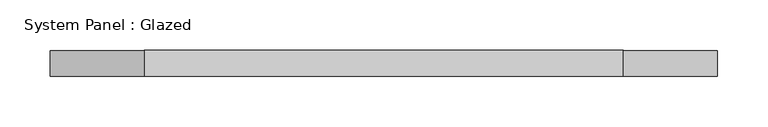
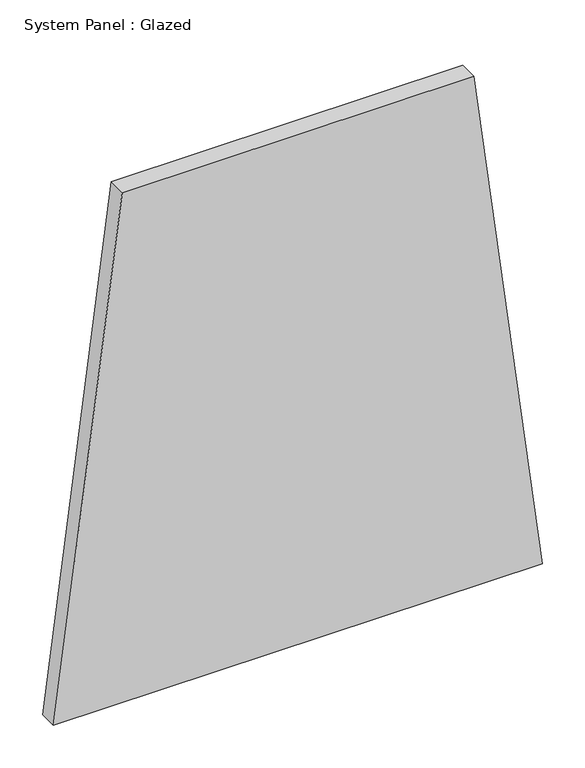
"""IFC4 building model written with IfcOpenShell, lengths in millimetres: plate geometry, System Panel : Glazed."""

from ifc_helpers import new_model, si_unit, frame, origin, place, context, project, spatial, polyline, outline, extrude, source, transform, mapped, element, save


def system_panel_glazed_86a28251(model_context):
    return source(origin(), model_context, "Body", "SweptSolid", [
        extrude(outline(polyline([(0.0, -330.9549539), (0.0, 330.9549539), (730.5145987, 238.0744749), (730.5145987, -238.0744749), (0.0, -330.9549539)])), frame((0.0, 19.05, 0.0), z_axis=(0.0, 1.0, 0.0), x_axis=(0.0, 0.0, 1.0)), (0.0, 0.0, 1.0), 25.4),
    ])


if __name__ == "__main__":
    model = new_model("IFC4")
    model_context = context("Model", 3, world=origin())
    ifc_project = project(units=[si_unit("LENGTHUNIT", "METRE", prefix="MILLI")], contexts=[model_context])
    site = spatial("IfcSite", under=ifc_project)
    building = spatial("IfcBuilding", under=site)
    placement = place(None, origin())
    system_panel_glazed_shape = system_panel_glazed_86a28251(model_context)
    element("IfcPlate", 1, ObjectType="System Panel : Glazed", at=placement, inside=building, context=model_context, shape_type="MappedRepresentation", body=[
        mapped(system_panel_glazed_shape, transform((0.0, 0.0, 0.0), x_axis=(1.0, 0.0, 0.0), y_axis=(0.0, 1.0, 0.0), z_axis=(0.0, 0.0, 1.0))),
    ])
    save(model, "model.ifc")
